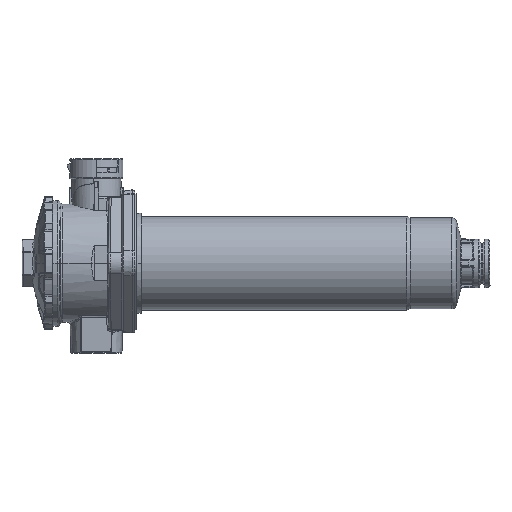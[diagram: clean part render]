
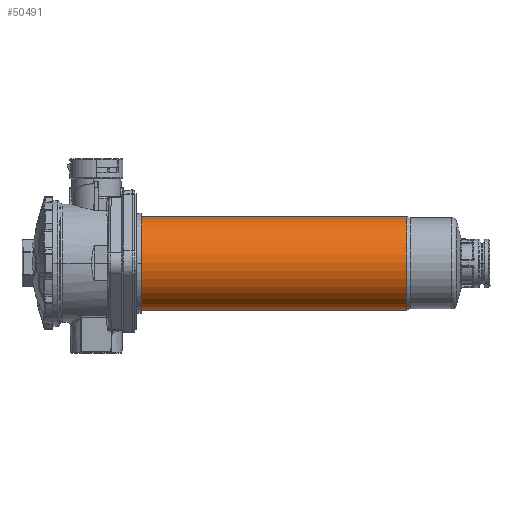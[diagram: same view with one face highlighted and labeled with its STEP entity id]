
A CAD part, top view. The second image highlights one B-rep face of the part: STEP entity #50491.
In plain terms, the highlighted cylindrical face has radius 36.5 mm (diameter 73 mm), a partial arc.
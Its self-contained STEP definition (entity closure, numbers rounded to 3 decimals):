
#13002=CARTESIAN_POINT('',(69.,-0.25,
0.));
#13003=DIRECTION('',(-1.,0.,0.));
#13004=DIRECTION('',(0.,-1.,0.));
#13005=AXIS2_PLACEMENT_3D('',#13002,#13003,#13004);
#16678=DIRECTION('',(1.,0.,0.));
#16679=VECTOR('',#16678,207.);
#16680=CARTESIAN_POINT('',(69.,36.25,
0.));
#16681=LINE('',#16680,#16679);
#16685=DIRECTION('',(1.,0.,0.));
#16686=VECTOR('',#16685,207.);
#16687=CARTESIAN_POINT('',(69.,-36.75,
0.));
#16688=LINE('',#16687,#16686);
#16902=CARTESIAN_POINT('',(276.,-0.25,
0.));
#16903=DIRECTION('',(-1.,0.,0.));
#16904=DIRECTION('',(0.,-1.,0.));
#16905=AXIS2_PLACEMENT_3D('',#16902,#16903,#16904);
#33247=CARTESIAN_POINT('',(276.,36.25,
0.));
#33248=VERTEX_POINT('',#33247);
#33249=CARTESIAN_POINT('',(276.,-36.75,
0.));
#33250=VERTEX_POINT('',#33249);
#33251=CARTESIAN_POINT('',(69.,-36.75,
0.));
#33252=VERTEX_POINT('',#33251);
#33253=CARTESIAN_POINT('',(69.,36.25,
0.));
#33254=VERTEX_POINT('',#33253);
#50480=CARTESIAN_POINT('',(162.,-0.25,
0.));
#50481=DIRECTION('',(1.,0.,0.));
#50482=DIRECTION('',(0.,1.,0.));
#50483=AXIS2_PLACEMENT_3D('',#50480,#50481,#50482);
#50484=CYLINDRICAL_SURFACE('',#50483,36.5);
#50485=ORIENTED_EDGE('',*,*,#46621,.T.);
#50486=ORIENTED_EDGE('',*,*,#50297,.T.);
#50487=ORIENTED_EDGE('',*,*,#50474,.F.);
#50488=ORIENTED_EDGE('',*,*,#50300,.F.);
#50489=EDGE_LOOP('',(#50485,#50486,#50487,#50488));
#50490=FACE_OUTER_BOUND('',#50489,.F.);
#13006=CIRCLE('',#13005,36.5);
#16906=CIRCLE('',#16905,36.5);
#46621=EDGE_CURVE('',#33252,#33254,#13006,.T.);
#50297=EDGE_CURVE('',#33254,#33248,#16681,.T.);
#50300=EDGE_CURVE('',#33252,#33250,#16688,.T.);
#50474=EDGE_CURVE('',#33250,#33248,#16906,.T.);
#50491=ADVANCED_FACE('',(#50490),#50484,.T.);
